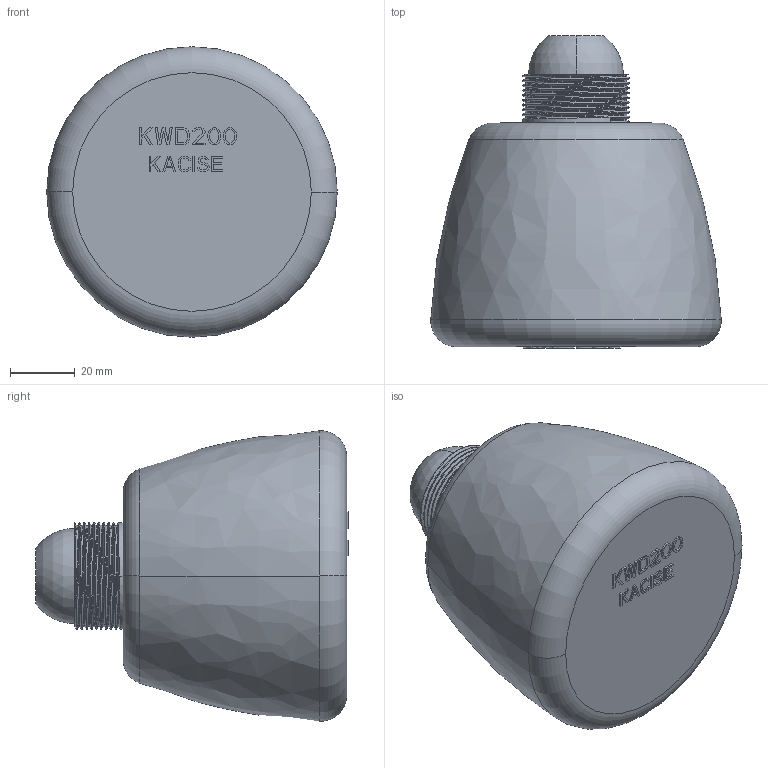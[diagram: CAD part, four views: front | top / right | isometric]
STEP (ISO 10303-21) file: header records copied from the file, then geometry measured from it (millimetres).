
FILE_DESCRIPTION((''),'2;1');
FILE_NAME('PRT0069','2025-12-30T08:49:16',('28740194'),(''),'CREO PARAMETRIC BY PTC INC, 2024063','CREO PARAMETRIC BY PTC INC, 2024063','');
FILE_SCHEMA(('CONFIG_CONTROL_DESIGN'));
Length unit declared in the file: millimetre
Products named in the file (1): PRT0069
Bounding box: 89.6 x 96.44 x 89.6 mm (x, y, z)
Volume: 370961.2 mm3; surface area: 29655.3 mm2
Topology: 1 solids, 1 shells, 366 faces, 1022 edges, 678 vertices
Faces by surface type: plane 323, cylinder 24, bspline 13, torus 4, sphere 2
Entity records: 14547 total; most frequent: CARTESIAN_POINT 5209, ORIENTED_EDGE 2044, DIRECTION 1704, EDGE_CURVE 1022, VECTOR 936, LINE 936, VERTEX_POINT 678, EDGE_LOOP 386
